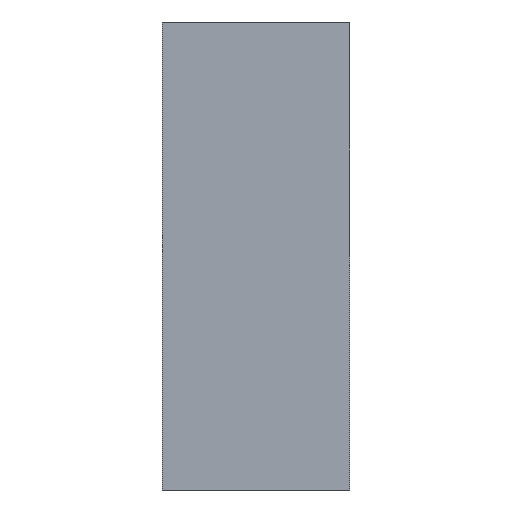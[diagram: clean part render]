
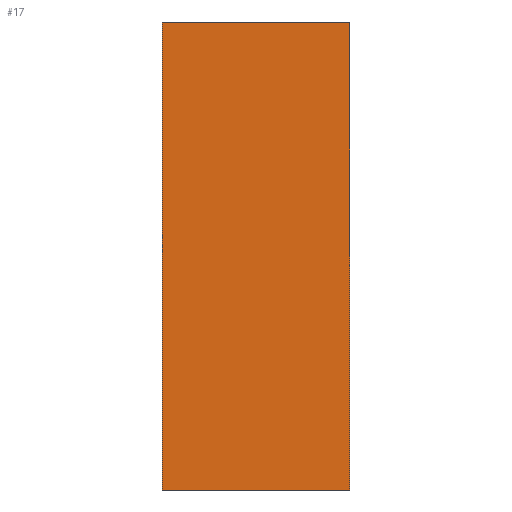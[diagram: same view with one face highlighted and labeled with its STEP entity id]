
A CAD part, left-side view. The second image highlights one B-rep face of the part: STEP entity #17.
In plain terms, the highlighted planar face has unit normal (-1, 0, 0).
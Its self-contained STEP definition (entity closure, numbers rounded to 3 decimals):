
#17 = ADVANCED_FACE('',(#18),#32,.F.);
#18 = FACE_BOUND('',#19,.F.);
#19 = EDGE_LOOP('',(#20,#55,#83,#111));
#20 = ORIENTED_EDGE('',*,*,#21,.F.);
#21 = EDGE_CURVE('',#22,#24,#26,.T.);
#22 = VERTEX_POINT('',#23);
#23 = CARTESIAN_POINT('',(-11.7,-9.,-10.));
#24 = VERTEX_POINT('',#25);
#25 = CARTESIAN_POINT('',(-11.7,-9.,10.));
#26 = SURFACE_CURVE('',#27,(#31,#43),.PCURVE_S1.);
#27 = LINE('',#28,#29);
#28 = CARTESIAN_POINT('',(-11.7,-9.,-10.));
#29 = VECTOR('',#30,1.);
#30 = DIRECTION('',(0.,0.,1.));
#31 = PCURVE('',#32,#37);
#32 = PLANE('',#33);
#33 = AXIS2_PLACEMENT_3D('',#34,#35,#36);
#34 = CARTESIAN_POINT('',(-11.7,-9.,-10.));
#35 = DIRECTION('',(1.,0.,0.));
#36 = DIRECTION('',(0.,0.,1.));
#37 = DEFINITIONAL_REPRESENTATION('',(#38),#42);
#38 = LINE('',#39,#40);
#39 = CARTESIAN_POINT('',(0.,0.));
#40 = VECTOR('',#41,1.);
#41 = DIRECTION('',(1.,0.));
#42 = ( GEOMETRIC_REPRESENTATION_CONTEXT(2) 
PARAMETRIC_REPRESENTATION_CONTEXT() REPRESENTATION_CONTEXT('2D SPACE',''
  ) );
#43 = PCURVE('',#44,#49);
#44 = PLANE('',#45);
#45 = AXIS2_PLACEMENT_3D('',#46,#47,#48);
#46 = CARTESIAN_POINT('',(-11.7,-9.,-10.));
#47 = DIRECTION('',(0.,1.,0.));
#48 = DIRECTION('',(0.,0.,1.));
#49 = DEFINITIONAL_REPRESENTATION('',(#50),#54);
#50 = LINE('',#51,#52);
#51 = CARTESIAN_POINT('',(0.,0.));
#52 = VECTOR('',#53,1.);
#53 = DIRECTION('',(1.,0.));
#54 = ( GEOMETRIC_REPRESENTATION_CONTEXT(2) 
PARAMETRIC_REPRESENTATION_CONTEXT() REPRESENTATION_CONTEXT('2D SPACE',''
  ) );
#55 = ORIENTED_EDGE('',*,*,#56,.T.);
#56 = EDGE_CURVE('',#22,#57,#59,.T.);
#57 = VERTEX_POINT('',#58);
#58 = CARTESIAN_POINT('',(-11.7,-1.,-10.));
#59 = SURFACE_CURVE('',#60,(#64,#71),.PCURVE_S1.);
#60 = LINE('',#61,#62);
#61 = CARTESIAN_POINT('',(-11.7,-9.,-10.));
#62 = VECTOR('',#63,1.);
#63 = DIRECTION('',(0.,1.,0.));
#64 = PCURVE('',#32,#65);
#65 = DEFINITIONAL_REPRESENTATION('',(#66),#70);
#66 = LINE('',#67,#68);
#67 = CARTESIAN_POINT('',(0.,0.));
#68 = VECTOR('',#69,1.);
#69 = DIRECTION('',(0.,-1.));
#70 = ( GEOMETRIC_REPRESENTATION_CONTEXT(2) 
PARAMETRIC_REPRESENTATION_CONTEXT() REPRESENTATION_CONTEXT('2D SPACE',''
  ) );
#71 = PCURVE('',#72,#77);
#72 = PLANE('',#73);
#73 = AXIS2_PLACEMENT_3D('',#74,#75,#76);
#74 = CARTESIAN_POINT('',(-11.7,-9.,-10.));
#75 = DIRECTION('',(0.,0.,1.));
#76 = DIRECTION('',(1.,0.,0.));
#77 = DEFINITIONAL_REPRESENTATION('',(#78),#82);
#78 = LINE('',#79,#80);
#79 = CARTESIAN_POINT('',(0.,0.));
#80 = VECTOR('',#81,1.);
#81 = DIRECTION('',(0.,1.));
#82 = ( GEOMETRIC_REPRESENTATION_CONTEXT(2) 
PARAMETRIC_REPRESENTATION_CONTEXT() REPRESENTATION_CONTEXT('2D SPACE',''
  ) );
#83 = ORIENTED_EDGE('',*,*,#84,.T.);
#84 = EDGE_CURVE('',#57,#85,#87,.T.);
#85 = VERTEX_POINT('',#86);
#86 = CARTESIAN_POINT('',(-11.7,-1.,10.));
#87 = SURFACE_CURVE('',#88,(#92,#99),.PCURVE_S1.);
#88 = LINE('',#89,#90);
#89 = CARTESIAN_POINT('',(-11.7,-1.,-10.));
#90 = VECTOR('',#91,1.);
#91 = DIRECTION('',(0.,0.,1.));
#92 = PCURVE('',#32,#93);
#93 = DEFINITIONAL_REPRESENTATION('',(#94),#98);
#94 = LINE('',#95,#96);
#95 = CARTESIAN_POINT('',(0.,-8.));
#96 = VECTOR('',#97,1.);
#97 = DIRECTION('',(1.,0.));
#98 = ( GEOMETRIC_REPRESENTATION_CONTEXT(2) 
PARAMETRIC_REPRESENTATION_CONTEXT() REPRESENTATION_CONTEXT('2D SPACE',''
  ) );
#99 = PCURVE('',#100,#105);
#100 = PLANE('',#101);
#101 = AXIS2_PLACEMENT_3D('',#102,#103,#104);
#102 = CARTESIAN_POINT('',(-11.7,-1.,-10.));
#103 = DIRECTION('',(0.,1.,0.));
#104 = DIRECTION('',(0.,0.,1.));
#105 = DEFINITIONAL_REPRESENTATION('',(#106),#110);
#106 = LINE('',#107,#108);
#107 = CARTESIAN_POINT('',(0.,0.));
#108 = VECTOR('',#109,1.);
#109 = DIRECTION('',(1.,0.));
#110 = ( GEOMETRIC_REPRESENTATION_CONTEXT(2) 
PARAMETRIC_REPRESENTATION_CONTEXT() REPRESENTATION_CONTEXT('2D SPACE',''
  ) );
#111 = ORIENTED_EDGE('',*,*,#112,.F.);
#112 = EDGE_CURVE('',#24,#85,#113,.T.);
#113 = SURFACE_CURVE('',#114,(#118,#125),.PCURVE_S1.);
#114 = LINE('',#115,#116);
#115 = CARTESIAN_POINT('',(-11.7,-9.,10.));
#116 = VECTOR('',#117,1.);
#117 = DIRECTION('',(0.,1.,0.));
#118 = PCURVE('',#32,#119);
#119 = DEFINITIONAL_REPRESENTATION('',(#120),#124);
#120 = LINE('',#121,#122);
#121 = CARTESIAN_POINT('',(20.,0.));
#122 = VECTOR('',#123,1.);
#123 = DIRECTION('',(0.,-1.));
#124 = ( GEOMETRIC_REPRESENTATION_CONTEXT(2) 
PARAMETRIC_REPRESENTATION_CONTEXT() REPRESENTATION_CONTEXT('2D SPACE',''
  ) );
#125 = PCURVE('',#126,#131);
#126 = PLANE('',#127);
#127 = AXIS2_PLACEMENT_3D('',#128,#129,#130);
#128 = CARTESIAN_POINT('',(-11.7,-9.,10.));
#129 = DIRECTION('',(0.,0.,1.));
#130 = DIRECTION('',(1.,0.,0.));
#131 = DEFINITIONAL_REPRESENTATION('',(#132),#136);
#132 = LINE('',#133,#134);
#133 = CARTESIAN_POINT('',(0.,0.));
#134 = VECTOR('',#135,1.);
#135 = DIRECTION('',(0.,1.));
#136 = ( GEOMETRIC_REPRESENTATION_CONTEXT(2) 
PARAMETRIC_REPRESENTATION_CONTEXT() REPRESENTATION_CONTEXT('2D SPACE',''
  ) );
